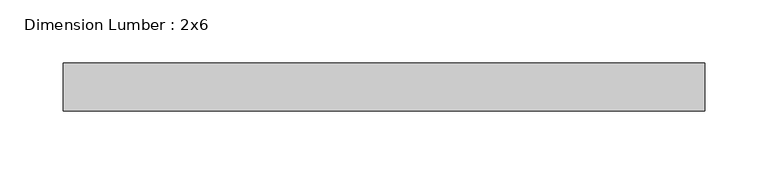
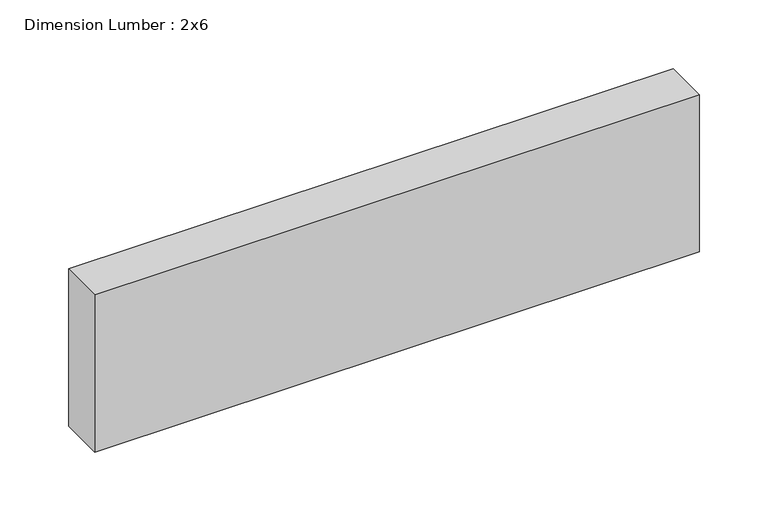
"""IFC4 building model written with IfcOpenShell, lengths in millimetres: beam geometry, Dimension Lumber : 2x6."""

import ifcopenshell
import ifcopenshell.guid

model = None  # the IFC model being written
_history = None  # IfcOwnerHistory: only IFC2X3 demands one
_inside = {}  # id of a spatial element -> (the spatial element, [elements in it])
_under = {}  # id of a project, library or spatial element -> (it, [spatial elements below it])
_declared = {}  # id of a project -> (the project, [libraries it declares])
_typed = {}  # id of a type object -> (the type object, [elements of that type])
_made_of = {}  # id of a material, layer set ... -> (it, [elements and type objects made of it])


def new_model(schema):
    """Start an empty IFC model of exactly this schema.

    Asked for "IFC4X3", IfcOpenShell would pick the latest addendum, in which some entities
    have other attributes; the version numbers below select the first issue.
    IFC2X3 requires an IfcOwnerHistory on every rooted entity: one is made here for all.
    """
    global model, _history
    if schema == "IFC4X3":
        model = ifcopenshell.file(schema_version=(4, 3, 0, 0))
    else:
        model = ifcopenshell.file(schema=schema)
    _inside.clear()
    _under.clear()
    _declared.clear()
    _typed.clear()
    _made_of.clear()
    _history = None
    if model.schema == "IFC2X3":
        org = make("IfcOrganization", Name="unknown")
        user = make(
            "IfcPersonAndOrganization",
            ThePerson=make("IfcPerson", FamilyName="unknown"),
            TheOrganization=org,
        )
        app = make(
            "IfcApplication",
            ApplicationDeveloper=org,
            Version="unknown",
            ApplicationFullName="unknown",
            ApplicationIdentifier="unknown",
        )
        _history = make(
            "IfcOwnerHistory",
            OwningUser=user,
            OwningApplication=app,
            ChangeAction="ADDED",
            CreationDate=0,
        )
    return model


def make(cls, **values):
    """One entity of the class cls with the attributes given. An attribute that is None is left unset."""
    return model.create_entity(
        cls, **{name: value for name, value in values.items() if value is not None}
    )


def rooted(cls, **values):
    """An entity with a GlobalId (a new one), such as an element, a storey or a relation."""
    return make(cls, GlobalId=ifcopenshell.guid.new(), OwnerHistory=_history, **values)


def si_unit(unit_type, name, prefix=None):
    """IfcSIUnit, for example si_unit("LENGTHUNIT", "METRE", prefix="MILLI")."""
    return make("IfcSIUnit", UnitType=unit_type, Prefix=prefix, Name=name)


def assignment(units):
    """IfcUnitAssignment: the units of a project."""
    return None if units is None else make("IfcUnitAssignment", Units=units)


def point(xyz):
    """IfcCartesianPoint."""
    return None if xyz is None else make("IfcCartesianPoint", Coordinates=xyz)


def direction(xyz):
    """IfcDirection."""
    return None if xyz is None else make("IfcDirection", DirectionRatios=xyz)


def frame(location, z_axis=None, x_axis=None):
    """IfcAxis2Placement3D, a coordinate frame: its origin and axes. An axis left out is left unset."""
    return make(
        "IfcAxis2Placement3D",
        Location=point(location),
        Axis=direction(z_axis),
        RefDirection=direction(x_axis),
    )


def origin():
    """The frame at (0, 0, 0) with its axes left unset."""
    return frame((0.0, 0.0, 0.0))


def place(relative_to, where):
    """IfcLocalPlacement: puts the frame where relative to a parent placement (None: the world)."""
    return make(
        "IfcLocalPlacement", PlacementRelTo=relative_to, RelativePlacement=where
    )


def context(
    kind, dimensions, precision=None, world=None, true_north=None, identifier=None
):
    """IfcGeometricRepresentationContext, for example the 3D "Model" context."""
    return make(
        "IfcGeometricRepresentationContext",
        ContextIdentifier=identifier,
        ContextType=kind,
        CoordinateSpaceDimension=dimensions,
        Precision=precision,
        WorldCoordinateSystem=world,
        TrueNorth=true_north,
    )


def project(units=None, contexts=None):
    """IfcProject with its units and contexts."""
    return rooted(
        "IfcProject",
        Name="project",
        RepresentationContexts=contexts,
        UnitsInContext=assignment(units),
    )


def spatial(cls, under=None, at=None, **own):
    """A site, building, storey or space (cls), placed at a placement, below another one or the project."""
    s = rooted(cls, ObjectPlacement=at, **own)
    if under is not None:
        _under.setdefault(under.id(), (under, []))[1].append(s)
    return s


def polyline(points):
    """IfcPolyline through the points."""
    return make("IfcPolyline", Points=[point(p) for p in points])


def outline(outer, holes=None, kind="AREA"):
    """IfcArbitraryClosedProfileDef: a profile drawn as a closed curve; with holes, ...WithVoids."""
    if holes is None:
        return make("IfcArbitraryClosedProfileDef", ProfileType=kind, OuterCurve=outer)
    return make(
        "IfcArbitraryProfileDefWithVoids",
        ProfileType=kind,
        OuterCurve=outer,
        InnerCurves=holes,
    )


def extrude(swept, where, along, depth):
    """IfcExtrudedAreaSolid: the profile swept, set in the frame where, extruded along a direction by depth."""
    return make(
        "IfcExtrudedAreaSolid",
        SweptArea=swept,
        Position=where,
        ExtrudedDirection=direction(along),
        Depth=depth,
    )


def shape(context_of_items, identifier, shape_type, items):
    """IfcShapeRepresentation: the items that make up one representation, for example the "Body"."""
    return make(
        "IfcShapeRepresentation",
        ContextOfItems=context_of_items,
        RepresentationIdentifier=identifier,
        RepresentationType=shape_type,
        Items=items,
    )


def source(mapping_origin, context_of_items, identifier, shape_type, items):
    """IfcRepresentationMap: a shape defined once, which mapped items show again and again."""
    return make(
        "IfcRepresentationMap",
        MappingOrigin=mapping_origin,
        MappedRepresentation=shape(context_of_items, identifier, shape_type, items),
    )


def transform(
    local_origin,
    x_axis=None,
    y_axis=None,
    z_axis=None,
    scale=None,
    scale2=None,
    scale3=None,
    uniform=True,
):
    """IfcCartesianTransformationOperator3D, or its non-uniform kind. x_axis, y_axis, z_axis: its Axis1, 2, 3."""
    if uniform:
        return make(
            "IfcCartesianTransformationOperator3D",
            Axis1=direction(x_axis),
            Axis2=direction(y_axis),
            LocalOrigin=point(local_origin),
            Scale=scale,
            Axis3=direction(z_axis),
        )
    return make(
        "IfcCartesianTransformationOperator3DnonUniform",
        Axis1=direction(x_axis),
        Axis2=direction(y_axis),
        LocalOrigin=point(local_origin),
        Scale=scale,
        Axis3=direction(z_axis),
        Scale2=scale2,
        Scale3=scale3,
    )


def mapped(mapping_source, mapping_target):
    """IfcMappedItem: shows the shape of a source again, moved by a transform."""
    return make(
        "IfcMappedItem", MappingSource=mapping_source, MappingTarget=mapping_target
    )


def made_of(thing, what):
    """Note that an element or type object is made of a material, layer set ...; save() writes the relation."""
    if what is not None:
        _made_of.setdefault(what.id(), (what, []))[1].append(thing)
    return thing


def element(
    cls,
    number,
    at=None,
    inside=None,
    cuts=None,
    type_object=None,
    material=None,
    context=None,
    identifier="Body",
    shape_type=None,
    held_by="IfcProductDefinitionShape",
    body=None,
    shapes=None,
    **own,
):
    """One element of the class cls, such as IfcWall. Its Tag is "e" and its number.

    at: its placement. inside: the storey or other place that contains it. cuts: it is an
    opening in that element (IfcRelVoidsElement). A single representation is given by context,
    identifier, shape_type and body (its items); several are given by shapes. held_by: the class
    of the entity that holds the representations. save() writes the other relations.
    """
    e = rooted(cls, Tag="e%d" % number, ObjectPlacement=at, **own)
    if body is not None:
        shapes = [shape(context, identifier, shape_type, body)]
    if shapes is not None:
        e.Representation = make(held_by, Representations=shapes)
    if inside is not None:
        _inside.setdefault(inside.id(), (inside, []))[1].append(e)
    if cuts is not None:
        rooted(
            "IfcRelVoidsElement", RelatingBuildingElement=cuts, RelatedOpeningElement=e
        )
    if type_object is not None:
        _typed.setdefault(type_object.id(), (type_object, []))[1].append(e)
    return made_of(e, material)


def aggregate(whole, parts):
    """IfcRelAggregates: a whole, such as a stair, and the parts it consists of."""
    return rooted("IfcRelAggregates", RelatingObject=whole, RelatedObjects=parts)


def save(model, path):
    """Write the relations noted so far, then the file.

    IfcRelAggregates (storeys below a building ...), IfcRelContainedInSpatialStructure (elements
    in a storey), IfcRelDefinesByType, IfcRelAssociatesMaterial and IfcRelDeclares: one each for
    every whole, place, type object, material and project.
    """
    for whole, parts in _under.values():
        aggregate(whole, parts)
    for where, things in _inside.values():
        rooted(
            "IfcRelContainedInSpatialStructure",
            RelatedElements=things,
            RelatingStructure=where,
        )
    for kind, things in _typed.values():
        rooted("IfcRelDefinesByType", RelatedObjects=things, RelatingType=kind)
    for what, things in _made_of.values():
        rooted("IfcRelAssociatesMaterial", RelatedObjects=things, RelatingMaterial=what)
    for by, libraries in _declared.values():
        rooted("IfcRelDeclares", RelatingContext=by, RelatedDefinitions=libraries)
    model.write(path)


def dimension_lumber_2x6_8df051c4(model_context):
    return source(origin(), model_context, "Body", "SweptSolid", [
        extrude(outline(polyline([(254.0, 19.05), (254.0, -19.05), (-254.0, -19.05), (-254.0, 19.05), (254.0, 19.05)])), frame((0.0, 0.0, -69.85), z_axis=(0.0, 0.0, 1.0), x_axis=(1.0, 0.0, 0.0)), (0.0, 0.0, 1.0), 139.7),
    ])


if __name__ == "__main__":
    model = new_model("IFC4")
    model_context = context("Model", 3, world=origin())
    ifc_project = project(units=[si_unit("LENGTHUNIT", "METRE", prefix="MILLI")], contexts=[model_context])
    site = spatial("IfcSite", under=ifc_project)
    building = spatial("IfcBuilding", under=site)
    placement = place(None, origin())
    dimension_lumber_2x6_shape = dimension_lumber_2x6_8df051c4(model_context)
    element("IfcBeam", 1, ObjectType="Dimension Lumber : 2x6", at=placement, inside=building, context=model_context, shape_type="MappedRepresentation", body=[
        mapped(dimension_lumber_2x6_shape, transform((0.0, 0.0, 0.0), x_axis=(1.0, 0.0, 0.0), y_axis=(0.0, 1.0, 0.0), z_axis=(0.0, 0.0, 1.0))),
    ])
    save(model, "model.ifc")
